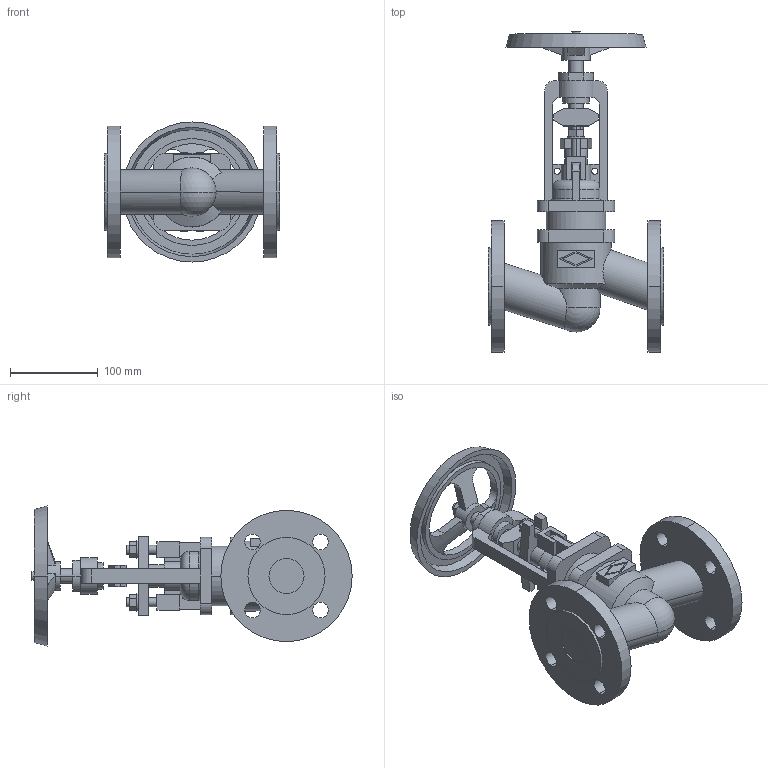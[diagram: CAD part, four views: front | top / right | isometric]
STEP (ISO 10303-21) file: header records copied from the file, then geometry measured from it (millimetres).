
FILE_DESCRIPTION(('OneSpaceDesigner STEP Export'),'2;1');
FILE_NAME('c000003761.stp','2009-06-16T11:00:49',(''),(''),'OneSpace Designer STEP processor for AP214 (Solid Model)','OneSpace Modeling 15.50B 03-Nov-2007 (C) CoCreate Software GmbH','');
FILE_SCHEMA(('AUTOMOTIVE_DESIGN { 1 0 10303 214 1 1 1 1 }'));
Length unit declared in the file: millimetre
Products named in the file (1): 1
Bounding box: 200 x 365.9 x 160 mm (x, y, z)
Volume: 1774508.5 mm3; surface area: 250944.2 mm2
Topology: 1 solids, 1 shells, 289 faces, 757 edges, 496 vertices
Faces by surface type: plane 148, cylinder 111, cone 20, torus 8, sphere 2
Entity records: 11446 total; most frequent: CARTESIAN_POINT 2406, ORIENTED_EDGE 1510, DIRECTION 1243, EDGE_CURVE 755, VERTEX_POINT 496, VECTOR 427, LINE 427, AXIS2_PLACEMENT_3D 408
